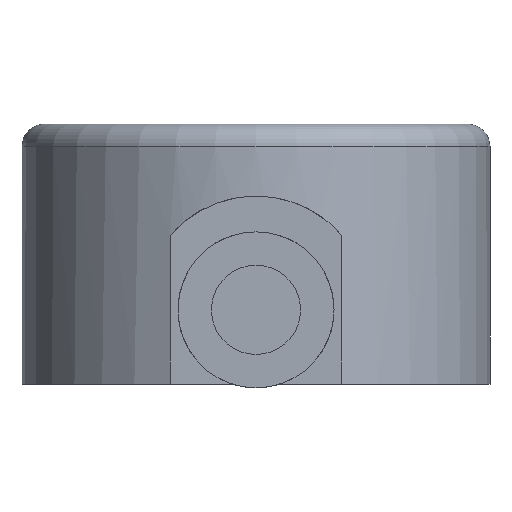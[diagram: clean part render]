
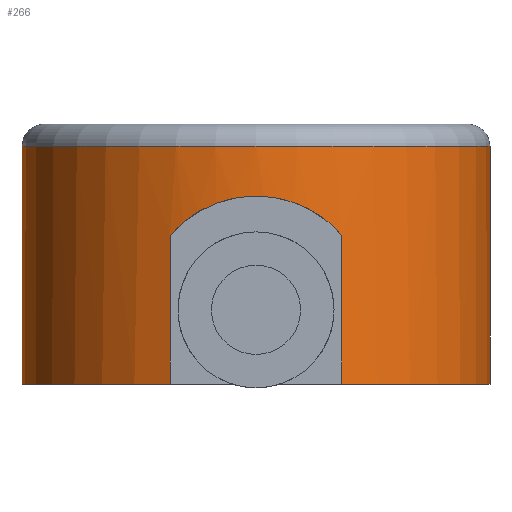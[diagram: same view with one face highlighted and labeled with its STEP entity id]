
A CAD part, front view. The second image highlights one B-rep face of the part: STEP entity #266.
In plain terms, the highlighted cylindrical face has radius 31.5 mm (diameter 63 mm), a partial arc.
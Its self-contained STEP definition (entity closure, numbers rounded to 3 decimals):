
#3 = LINE ( 'NONE', #481, #386 ) ;
#13 = CARTESIAN_POINT ( 'NONE',  ( 0., 0., 32. ) ) ;
#14 = EDGE_CURVE ( 'NONE', #185, #214, #3, .T. ) ;
#17 = CARTESIAN_POINT ( 'NONE',  ( 11.565, -29.3, 0. ) ) ;
#24 = CARTESIAN_POINT ( 'NONE',  ( 5.404, -31.05, 24.38 ) ) ;
#25 = AXIS2_PLACEMENT_3D ( 'NONE', #201, #350, #312 ) ;
#28 = CARTESIAN_POINT ( 'NONE',  ( -2.223, -31.426, 25.171 ) ) ;
#30 = ORIENTED_EDGE ( 'NONE', *, *, #101, .T. ) ;
#36 = ORIENTED_EDGE ( 'NONE', *, *, #177, .T. ) ;
#43 = VERTEX_POINT ( 'NONE', #370 ) ;
#44 = CARTESIAN_POINT ( 'NONE',  ( -31.5, 0., 35. ) ) ;
#53 = DIRECTION ( 'NONE',  ( 0., 0., 1. ) ) ;
#54 = DIRECTION ( 'NONE',  ( 1., 0., 0. ) ) ;
#58 = AXIS2_PLACEMENT_3D ( 'NONE', #390, #53, #165 ) ;
#61 = CARTESIAN_POINT ( 'NONE',  ( 2.192, -31.429, 25.176 ) ) ;
#63 = ORIENTED_EDGE ( 'NONE', *, *, #75, .F. ) ;
#67 = ORIENTED_EDGE ( 'NONE', *, *, #278, .T. ) ;
#72 = CARTESIAN_POINT ( 'NONE',  ( 2.747, -31.385, 25.085 ) ) ;
#75 = EDGE_CURVE ( 'NONE', #143, #85, #123, .T. ) ;
#84 = LINE ( 'NONE', #394, #105 ) ;
#85 = VERTEX_POINT ( 'NONE', #296 ) ;
#99 = CARTESIAN_POINT ( 'NONE',  ( -8.334, -30.381, 22.87 ) ) ;
#101 = EDGE_CURVE ( 'NONE', #443, #218, #448, .T. ) ;
#105 = VECTOR ( 'NONE', #368, 1000. ) ;
#110 = ORIENTED_EDGE ( 'NONE', *, *, #14, .F. ) ;
#111 = CARTESIAN_POINT ( 'NONE',  ( -31.5, 0., 32. ) ) ;
#116 = B_SPLINE_CURVE_WITH_KNOTS ( 'NONE', 3,
 ( #431, #324, #472, #141, #99, #210, #134, #283, #288, #133, #28, #362, #244, #248, #395, #61, #72, #359, #24, #420, #353, #247, #174, #323, #204, #139 ),
 .UNSPECIFIED., .F., .F.,
 ( 4, 2, 2, 2, 2, 2, 2, 2, 2, 2, 2, 2, 4 ),
 ( 0., 0.003, 0.005, 0.007, 0.01, 0.012, 0.013, 0.015, 0.017, 0.02, 0.022, 0.023, 0.027 ),
 .UNSPECIFIED. ) ;
#123 = LINE ( 'NONE', #150, #400 ) ;
#133 = CARTESIAN_POINT ( 'NONE',  ( -2.778, -31.382, 25.079 ) ) ;
#134 = CARTESIAN_POINT ( 'NONE',  ( -6.913, -30.736, 23.686 ) ) ;
#139 = CARTESIAN_POINT ( 'NONE',  ( 11.565, -29.3, 20.052 ) ) ;
#141 = CARTESIAN_POINT ( 'NONE',  ( -8.782, -30.254, 22.568 ) ) ;
#143 = VERTEX_POINT ( 'NONE', #17 ) ;
#150 = CARTESIAN_POINT ( 'NONE',  ( 11.565, -29.3, 35. ) ) ;
#165 = DIRECTION ( 'NONE',  ( 1., 0., 0. ) ) ;
#173 = CYLINDRICAL_SURFACE ( 'NONE', #379, 31.5 ) ;
#174 = CARTESIAN_POINT ( 'NONE',  ( 8.765, -30.259, 22.58 ) ) ;
#177 = EDGE_CURVE ( 'NONE', #188, #443, #193, .T. ) ;
#185 = VERTEX_POINT ( 'NONE', #425 ) ;
#188 = VERTEX_POINT ( 'NONE', #276 ) ;
#189 = DIRECTION ( 'NONE',  ( 0., 0., -1. ) ) ;
#193 = CIRCLE ( 'NONE', #389, 31.5 ) ;
#201 = CARTESIAN_POINT ( 'NONE',  ( 0., 0., 0. ) ) ;
#204 = CARTESIAN_POINT ( 'NONE',  ( 10.854, -29.581, 20.87 ) ) ;
#210 = CARTESIAN_POINT ( 'NONE',  ( -7.399, -30.623, 23.43 ) ) ;
#214 = VERTEX_POINT ( 'NONE', #307 ) ;
#218 = VERTEX_POINT ( 'NONE', #460 ) ;
#226 = ORIENTED_EDGE ( 'NONE', *, *, #383, .T. ) ;
#230 = CIRCLE ( 'NONE', #25, 31.5 ) ;
#238 = DIRECTION ( 'NONE',  ( 0., 0., -1. ) ) ;
#244 = CARTESIAN_POINT ( 'NONE',  ( -0.57, -31.5, 25.322 ) ) ;
#247 = CARTESIAN_POINT ( 'NONE',  ( 8.317, -30.386, 22.881 ) ) ;
#248 = CARTESIAN_POINT ( 'NONE',  ( 0.534, -31.5, 25.324 ) ) ;
#259 = EDGE_CURVE ( 'NONE', #188, #43, #84, .T. ) ;
#261 = ORIENTED_EDGE ( 'NONE', *, *, #259, .F. ) ;
#266 = ADVANCED_FACE ( 'NONE', ( #326 ), #173, .T. ) ;
#276 = CARTESIAN_POINT ( 'NONE',  ( 31.5, 0., 32. ) ) ;
#278 = EDGE_CURVE ( 'NONE', #185, #85, #116, .T. ) ;
#283 = CARTESIAN_POINT ( 'NONE',  ( -5.432, -31.045, 24.369 ) ) ;
#288 = CARTESIAN_POINT ( 'NONE',  ( -4.399, -31.21, 24.72 ) ) ;
#296 = CARTESIAN_POINT ( 'NONE',  ( 11.565, -29.3, 20.052 ) ) ;
#307 = CARTESIAN_POINT ( 'NONE',  ( -11.565, -29.3, 0. ) ) ;
#312 = DIRECTION ( 'NONE',  ( 1., 0., 0. ) ) ;
#320 = DIRECTION ( 'NONE',  ( -1., 0., 0. ) ) ;
#323 = CARTESIAN_POINT ( 'NONE',  ( 10.056, -29.865, 21.611 ) ) ;
#324 = CARTESIAN_POINT ( 'NONE',  ( -10.854, -29.581, 20.87 ) ) ;
#326 = FACE_OUTER_BOUND ( 'NONE', #456, .T. ) ;
#331 = DIRECTION ( 'NONE',  ( 0., 0., -1. ) ) ;
#347 = VECTOR ( 'NONE', #189, 1000. ) ;
#350 = DIRECTION ( 'NONE',  ( 0., 0., 1. ) ) ;
#353 = CARTESIAN_POINT ( 'NONE',  ( 7.386, -30.626, 23.436 ) ) ;
#359 = CARTESIAN_POINT ( 'NONE',  ( 4.366, -31.215, 24.729 ) ) ;
#362 = CARTESIAN_POINT ( 'NONE',  ( -1.121, -31.485, 25.292 ) ) ;
#365 = ORIENTED_EDGE ( 'NONE', *, *, #396, .T. ) ;
#368 = DIRECTION ( 'NONE',  ( 0., 0., -1. ) ) ;
#370 = CARTESIAN_POINT ( 'NONE',  ( 31.5, 0., 0. ) ) ;
#375 = DIRECTION ( 'NONE',  ( 0., 0., 1. ) ) ;
#379 = AXIS2_PLACEMENT_3D ( 'NONE', #397, #434, #320 ) ;
#383 = EDGE_CURVE ( 'NONE', #143, #43, #470, .T. ) ;
#386 = VECTOR ( 'NONE', #331, 1000. ) ;
#389 = AXIS2_PLACEMENT_3D ( 'NONE', #13, #238, #54 ) ;
#390 = CARTESIAN_POINT ( 'NONE',  ( 0., 0., 0. ) ) ;
#394 = CARTESIAN_POINT ( 'NONE',  ( 31.5, 0., 35. ) ) ;
#395 = CARTESIAN_POINT ( 'NONE',  ( 1.086, -31.486, 25.295 ) ) ;
#396 = EDGE_CURVE ( 'NONE', #218, #214, #230, .T. ) ;
#397 = CARTESIAN_POINT ( 'NONE',  ( 0., 0., 35. ) ) ;
#400 = VECTOR ( 'NONE', #375, 1000. ) ;
#420 = CARTESIAN_POINT ( 'NONE',  ( 6.901, -30.739, 23.692 ) ) ;
#425 = CARTESIAN_POINT ( 'NONE',  ( -11.565, -29.3, 20.052 ) ) ;
#431 = CARTESIAN_POINT ( 'NONE',  ( -11.565, -29.3, 20.052 ) ) ;
#434 = DIRECTION ( 'NONE',  ( 0., 0., -1. ) ) ;
#443 = VERTEX_POINT ( 'NONE', #111 ) ;
#448 = LINE ( 'NONE', #44, #347 ) ;
#456 = EDGE_LOOP ( 'NONE', ( #261, #36, #30, #365, #110, #67, #63, #226 ) ) ;
#460 = CARTESIAN_POINT ( 'NONE',  ( -31.5, 0., 0. ) ) ;
#470 = CIRCLE ( 'NONE', #58, 31.5 ) ;
#472 = CARTESIAN_POINT ( 'NONE',  ( -10.07, -29.861, 21.599 ) ) ;
#481 = CARTESIAN_POINT ( 'NONE',  ( -11.565, -29.3, 35. ) ) ;
